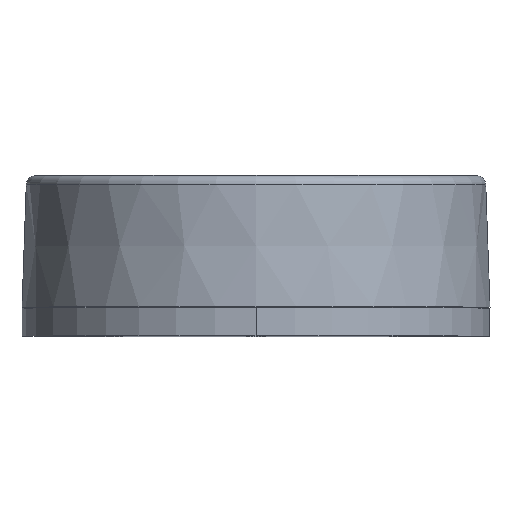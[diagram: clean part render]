
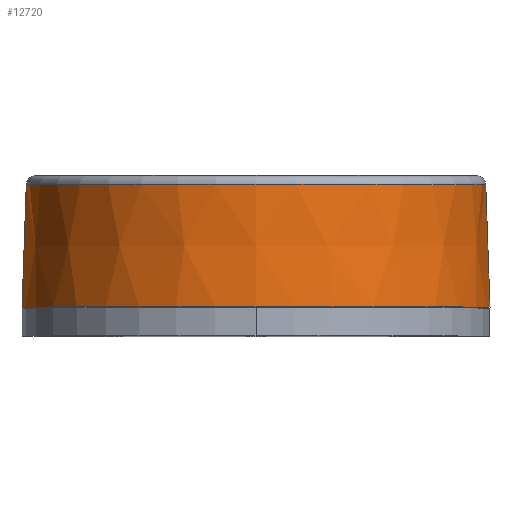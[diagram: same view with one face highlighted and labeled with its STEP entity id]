
A CAD part, top view. The second image highlights one B-rep face of the part: STEP entity #12720.
In plain terms, the highlighted conical face has half-angle 2 degrees and reference radius 25 mm.
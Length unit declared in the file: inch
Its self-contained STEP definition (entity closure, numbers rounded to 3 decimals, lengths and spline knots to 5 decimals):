
#764 = EDGE_CURVE ( 'NONE', #2994, #16369, #20956, .T. ) ;
#913 = VERTEX_POINT ( 'NONE', #5502 ) ;
#1378 = ORIENTED_EDGE ( 'NONE', *, *, #9570, .T. ) ;
#1379 = ORIENTED_EDGE ( 'NONE', *, *, #10419, .T. ) ;
#1382 = ORIENTED_EDGE ( 'NONE', *, *, #25102, .F. ) ;
#1384 = ORIENTED_EDGE ( 'NONE', *, *, #764, .F. ) ;
#1934 = CARTESIAN_POINT ( 'NONE',  ( -1.07213, 0.08223, 0.01325 ) ) ;
#1962 = DIRECTION ( 'NONE',  ( -0.035, -0.999, 0. ) ) ;
#2994 = VERTEX_POINT ( 'NONE', #24935 ) ;
#4951 = LINE ( 'NONE', #1934, #4953 ) ;
#4953 = VECTOR ( 'NONE', #1962, 39.37008 ) ;
#5097 = FACE_OUTER_BOUND ( 'NONE', #21081, .T. ) ;
#5101 = CONICAL_SURFACE ( 'NONE', #21724, 0.98425, 0.035 ) ;
#5502 = CARTESIAN_POINT ( 'NONE',  ( -1.07213, 0.08223, 0.01325 ) ) ;
#5749 = CARTESIAN_POINT ( 'NONE',  ( 0.89637, 0.08223, 0.01325 ) ) ;
#5810 = DIRECTION ( 'NONE',  ( 0.035, -0.999, 0. ) ) ;
#7575 = CIRCLE ( 'NONE', #21537, 0.96628 ) ;
#9570 = EDGE_CURVE ( 'NONE', #2994, #17448, #7575, .T. ) ;
#10419 = EDGE_CURVE ( 'NONE', #17448, #913, #4951, .T. ) ;
#11005 = AXIS2_PLACEMENT_3D ( 'NONE', #23524, #23525, #23526 ) ;
#12720 = ADVANCED_FACE ( 'NONE', ( #5097 ), #5101, .T. ) ;
#13470 = DIRECTION ( 'NONE',  ( 0., -1., 0. ) ) ;
#13532 = DIRECTION ( 'NONE',  ( 1., 0., 0. ) ) ;
#13578 = CARTESIAN_POINT ( 'NONE',  ( -0.08788, 0.08223, 0.01325 ) ) ;
#14604 = CIRCLE ( 'NONE', #11005, 0.98425 ) ;
#15012 = CARTESIAN_POINT ( 'NONE',  ( 0.89637, 0.08223, 0.01325 ) ) ;
#15325 = CARTESIAN_POINT ( 'NONE',  ( -1.05416, 0.59699, 0.01325 ) ) ;
#16369 = VERTEX_POINT ( 'NONE', #15012 ) ;
#17448 = VERTEX_POINT ( 'NONE', #15325 ) ;
#18262 = DIRECTION ( 'NONE',  ( 0., -1., 0. ) ) ;
#18419 = DIRECTION ( 'NONE',  ( -1., 0., 0. ) ) ;
#18553 = CARTESIAN_POINT ( 'NONE',  ( -0.08788, 0.59699, 0.01325 ) ) ;
#20956 = LINE ( 'NONE', #5749, #20959 ) ;
#20959 = VECTOR ( 'NONE', #5810, 39.37008 ) ;
#21081 = EDGE_LOOP ( 'NONE', ( #1378, #1379, #1382, #1384 ) ) ;
#21537 = AXIS2_PLACEMENT_3D ( 'NONE', #18553, #18262, #18419 ) ;
#21724 = AXIS2_PLACEMENT_3D ( 'NONE', #13578, #13470, #13532 ) ;
#23524 = CARTESIAN_POINT ( 'NONE',  ( -0.08788, 0.08223, 0.01325 ) ) ;
#23525 = DIRECTION ( 'NONE',  ( 0., -1., 0. ) ) ;
#23526 = DIRECTION ( 'NONE',  ( 1., 0., 0. ) ) ;
#24935 = CARTESIAN_POINT ( 'NONE',  ( 0.87839, 0.59699, 0.01325 ) ) ;
#25102 = EDGE_CURVE ( 'NONE', #16369, #913, #14604, .T. ) ;
